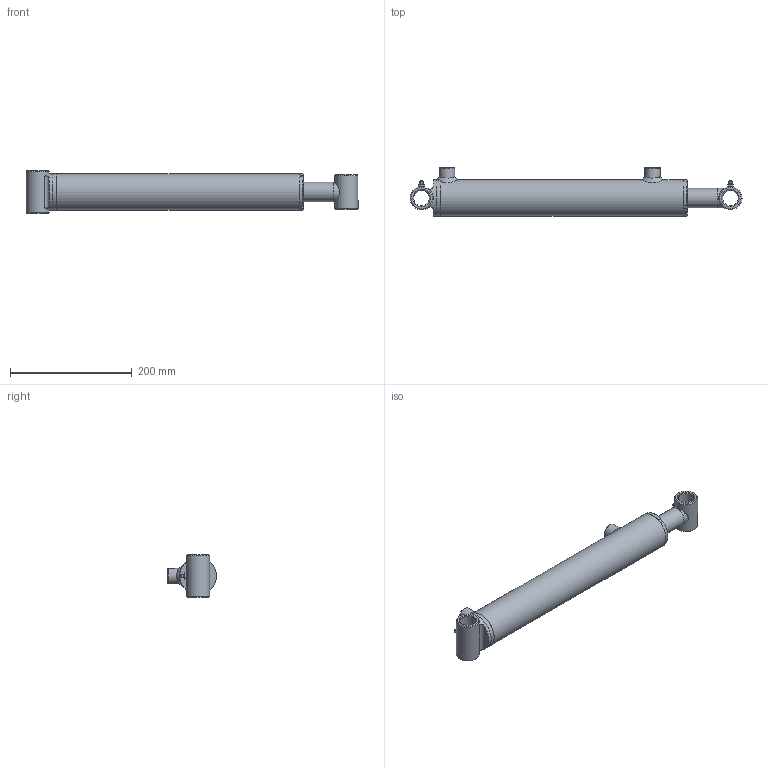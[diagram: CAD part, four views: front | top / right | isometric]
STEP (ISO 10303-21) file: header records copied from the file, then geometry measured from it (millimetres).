
FILE_DESCRIPTION(/* description */ (''),/* implementation_level */ '2;1');
FILE_NAME(/* name */ 'C:\01 - Philip\00 - Philip Rivard\01 - Contracts\Eagle Hydraulic Components\00 - 3D Cylinder\01 - Standard\HBU\HBU20XX\STEP\HBU2012.stp',/* time_stamp */ '2015-05-19T19:59:45-04:00',/* author */ ('Philip'),/* organization */ (''),/* preprocessor_version */ 'ST-DEVELOPER v16.1',/* originating_system */ 'Autodesk Inventor 2016',/* authorisation */ '');
FILE_SCHEMA (('AUTOMOTIVE_DESIGN { 1 0 10303 214 3 1 1 }'));
Length unit declared in the file: inch
Products named in the file (12): Tube_Welding_Welds; ECP-20-HBU; Tube; Straight_Port; Gland; Grease Fitting 1-8; Tube_Welding; Rod_Welding_Welds; Rod; Bushing; Rod_Welding; Cylinder_Assembly
Assembly tree (13 placements, depth 3):
  Cylinder_Assembly
    Tube_Welding
      Tube_Welding_Welds
      ECP-20-HBU
      Tube
      Straight_Port  x2
      Gland
      Grease Fitting 1-8
    Rod_Welding
      Rod_Welding_Welds
      Rod
      Bushing
      Grease Fitting 1-8
Bounding box: 546.1 x 80.33 x 69.8 mm (x, y, z)
Volume: 857346.7 mm3; surface area: 252456.9 mm2
Topology: 12 solids, 12 shells, 197 faces, 429 edges, 260 vertices
Faces by surface type: cone 65, plane 55, cylinder 50, torus 15, bspline 10, sphere 2
Full cylindrical faces by diameter (mm): 4 x2, 5 x1, 7.5 x2, 8 x2, 10 x2, 12.751 x2, 22 x1, 25 x4, 25.4 x2, 25.65 x2, 26 x1, 26.25 x1, 31.75 x2, 38.1 x2, 43 x1, 44.45 x1, 50.546 x1, 50.75 x1, 50.8 x1, 51 x1, 55 x4, 60.3 x1, 60.325 x1
Entity records: 6036 total; most frequent: CARTESIAN_POINT 2846, DIRECTION 631, ORIENTED_EDGE 486, AXIS2_PLACEMENT_3D 293, EDGE_LOOP 270, EDGE_CURVE 243, VERTEX_POINT 191, ADVANCED_FACE 157
